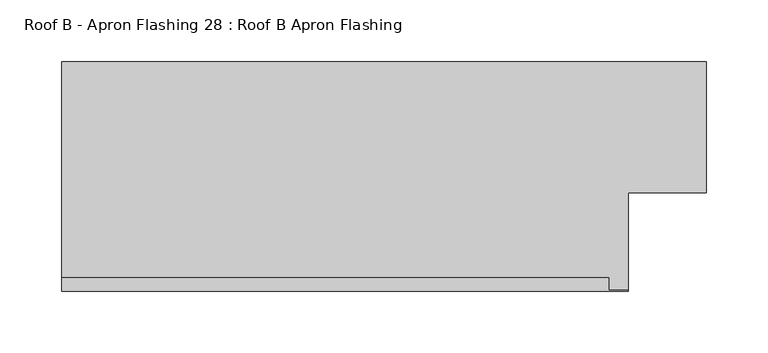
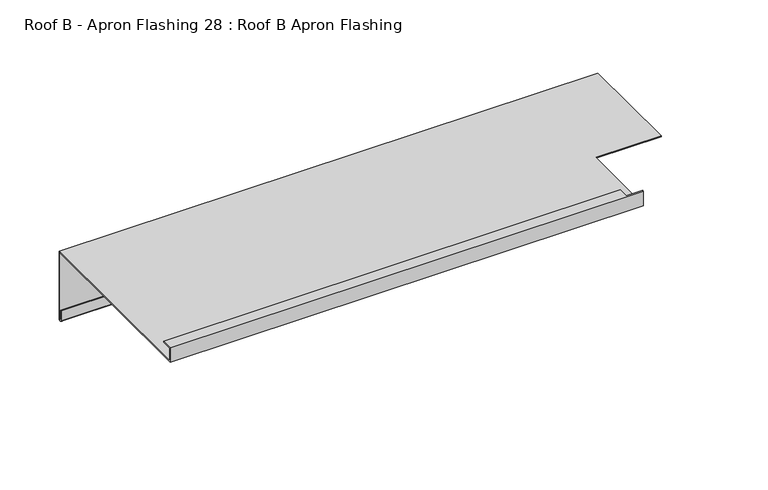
"""IFC4 building model written with IfcOpenShell, lengths in millimetres: proxy geometry, Roof B - Apron Flashing 28 : Roof B Apron Flashing."""

from ifc_helpers import new_model, si_unit, frame, origin, place, context, project, spatial, polyline, circle_curve, source, transform, mapped, element, save
from ifc_brep_helpers import plane_surface, cylinder_surface, revolved_surface, advanced_brep


def roof_b_apron_flashing_28_roof_b_apron_flashing_59df76a3(model_context):
    return source(origin(), model_context, "Body", "AdvancedBrep", [
        advanced_brep(
        [(17202.834238, -20612.5455269, -986.662203), (17202.834238, -20612.5455269, -1055.0764166), (17202.834238, -20613.5455269, -1055.0764166), (17202.834238, -20613.5455269, -1045.1233066), (17202.834238, -20614.5455269, -1045.1233066), (17202.834238, -20614.5455269, -1055.0764166), (17202.834238, -20611.5455269, -1055.0764166), (17202.834238, -20611.5455269, -985.662203), (17202.834238, -20717.9886752, -985.662203), (17202.834238, -20717.9886752, -986.662203), (16679.5223206, -20611.5455269, -985.662203), (16679.5223206, -20611.5455269, -1055.0764166), (16679.5223206, -20614.5455269, -1055.0764166), (16679.5223206, -20614.5455269, -1045.1233066), (16679.5223206, -20613.5455269, -1045.1233066), (16679.5223206, -20613.5455269, -1055.0764166), (16679.5223206, -20612.5455269, -1055.0764166), (16679.5223206, -20612.5455269, -986.662203), (16679.5223206, -20797.9866572, -986.662203), (16679.5223206, -20797.9866572, -971.662203), (16679.5223206, -20786.9483445, -971.662203), (16679.5223206, -20786.9483445, -972.662203), (16679.5223206, -20796.9866572, -972.662203), (16679.5223206, -20796.9866572, -985.662203), (17139.5223206, -20796.9866572, -985.662203), (17139.5223206, -20717.9886752, -985.662203), (17139.5223206, -20717.9886752, -986.662203), (17139.5223206, -20797.9866572, -986.662203), (17123.3947451, -20796.9866572, -972.662203), (17123.3947451, -20796.9866572, -971.662203), (17139.5223206, -20796.9866572, -971.662203), (17123.3947451, -20786.9483445, -972.662203), (17123.3947451, -20786.9483445, -971.662203), (17139.5223206, -20797.9866572, -971.662203)],
        [
            (0, 1),
            (1, 2, circle_curve(frame((17202.834238, -20613.0455269, -1055.0764166), z_axis=(-1.0, 0.0, 0.0), x_axis=(0.0, 0.0, 1.0)), 0.5)),
            (2, 3),
            (3, 4),
            (4, 5),
            (5, 6, circle_curve(frame((17202.834238, -20613.0455269, -1055.0764166), z_axis=(1.0, 0.0, 0.0), x_axis=(0.0, 0.0, 1.0)), 1.5)),
            (6, 7),
            (7, 8),
            (8, 9),
            (9, 0),
            (10, 11),
            (11, 12, circle_curve(frame((16679.5223206, -20613.0455269, -1055.0764166), z_axis=(-1.0, 0.0, 0.0), x_axis=(0.0, 0.0, 1.0)), 1.5)),
            (12, 13),
            (13, 14),
            (14, 15),
            (15, 16, circle_curve(frame((16679.5223206, -20613.0455269, -1055.0764166), z_axis=(1.0, 0.0, 0.0), x_axis=(0.0, 0.0, 1.0)), 0.5)),
            (16, 17),
            (17, 18),
            (18, 19),
            (19, 20),
            (20, 21),
            (21, 22),
            (22, 23),
            (23, 10),
            (23, 24),
            (24, 25),
            (25, 8),
            (7, 10),
            (17, 0),
            (9, 26),
            (26, 27),
            (27, 18),
            (16, 1),
            (6, 11),
            (22, 28),
            (28, 29),
            (29, 30),
            (30, 24),
            (21, 31),
            (31, 28),
            (20, 32),
            (32, 31),
            (19, 33),
            (33, 30),
            (29, 32),
            (27, 33),
            (15, 2),
            (14, 3),
            (13, 4),
            (12, 5),
            (26, 25),
        ],
        [
            plane_surface(frame((17202.834238, -20806.0187503, -1042.7388515), z_axis=(1.0, 0.0, 0.0), x_axis=(0.0, 1.0, 0.0))),
            plane_surface(frame((16679.5223206, -20806.0187503, -1042.7388515), z_axis=(-1.0, 0.0, 0.0), x_axis=(0.0, 1.0, 0.0))),
            plane_surface(frame((17202.834238, -20611.5455269, -985.662203), z_axis=(0.0, 0.0, 1.0), x_axis=(-1.0, 0.0, 0.0))),
            plane_surface(frame((17202.834238, -20797.9866572, -986.662203), z_axis=(0.0, 0.0, -1.0), x_axis=(-1.0, 0.0, 0.0))),
            plane_surface(frame((17202.834238, -20612.5455269, -986.662203), z_axis=(0.0, -1.0, 0.0), x_axis=(-1.0, 0.0, 0.0))),
            plane_surface(frame((17202.834238, -20611.5455269, -1055.0764166), z_axis=(0.0, 1.0, 0.0), x_axis=(-1.0, 0.0, 0.0))),
            plane_surface(frame((17202.834238, -20796.9866572, -985.662203), z_axis=(0.0, 1.0, 0.0), x_axis=(-1.0, 0.0, 0.0))),
            plane_surface(frame((17202.834238, -20796.9866572, -972.662203), z_axis=(0.0, 0.0, -1.0), x_axis=(-1.0, 0.0, 0.0))),
            plane_surface(frame((17202.834238, -20786.9483445, -972.662203), z_axis=(0.0, 1.0, 0.0), x_axis=(-1.0, 0.0, 0.0))),
            plane_surface(frame((17202.834238, -20786.9483445, -971.662203), z_axis=(0.0, 0.0, 1.0), x_axis=(-1.0, 0.0, 0.0))),
            plane_surface(frame((17202.834238, -20797.9866572, -971.662203), z_axis=(0.0, -1.0, 0.0), x_axis=(-1.0, 0.0, 0.0))),
            revolved_surface(polyline([(16679.5223206, -20613.0455269, -1054.5764166), (17202.834238, -20613.0455269, -1054.5764166)]), (17202.834238, -20613.0455269, -1055.0764166), (-1.0, 0.0, 0.0)),
            plane_surface(frame((17202.834238, -20613.5455269, -1055.0764166), z_axis=(0.0, 1.0, 0.0), x_axis=(-1.0, 0.0, 0.0))),
            plane_surface(frame((17202.834238, -20613.5455269, -1045.1233066), z_axis=(0.0, 0.0, 1.0), x_axis=(-1.0, 0.0, 0.0))),
            plane_surface(frame((17202.834238, -20614.5455269, -1045.1233066), z_axis=(0.0, -1.0, 0.0), x_axis=(-1.0, 0.0, 0.0))),
            cylinder_surface(frame((17202.834238, -20613.0455269, -1055.0764166), z_axis=(1.0, 0.0, 0.0), x_axis=(0.0, 0.0, 1.0)), 1.5),
            plane_surface(frame((17139.5223206, -20717.9886752, -1079.9089722), z_axis=(1.0, 0.0, 0.0), x_axis=(0.0, -0.9659258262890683, 0.25881904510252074))),
            plane_surface(frame((17139.5223206, -20717.9886752, -852.4830665), z_axis=(0.0, -1.0, 0.0), x_axis=(1.0, 0.0, 0.0))),
            plane_surface(frame((17123.3947451, -20796.9866064, -884.3834078), z_axis=(1.0, 0.0, 0.0), x_axis=(0.0, 0.0, -1.0))),
        ],
        [
            (0, [[1, 2, 3, 4, 5, 6, 7, 8, 9, 10]]),
            (1, [[11, 12, 13, 14, 15, 16, 17, 18, 19, 20, 21, 22, 23, 24]]),
            (2, [[-24, 25, 26, 27, -8, 28]]),
            (3, [[-18, 29, -10, 30, 31, 32]]),
            (4, [[-1, -29, -17, 33]]),
            (5, [[-7, 34, -11, -28]]),
            (6, [[-23, 35, 36, 37, 38, -25]]),
            (7, [[-22, 39, 40, -35]]),
            (8, [[-21, 41, 42, -39]]),
            (9, [[-20, 43, 44, -37, 45, -41]]),
            (10, [[-19, -32, 46, -43]]),
            (11, [[-2, -33, -16, 47]]),
            (12, [[-3, -47, -15, 48]]),
            (13, [[-4, -48, -14, 49]]),
            (14, [[-5, -49, -13, 50]]),
            (15, [[-6, -50, -12, -34]]),
            (16, [[51, -26, -38, -44, -46, -31]]),
            (17, [[-51, -30, -9, -27]]),
            (18, [[-36, -40, -42, -45]]),
        ],
    ),
    ])


if __name__ == "__main__":
    model = new_model("IFC4")
    model_context = context("Model", 3, world=origin())
    ifc_project = project(units=[si_unit("LENGTHUNIT", "METRE", prefix="MILLI")], contexts=[model_context])
    site = spatial("IfcSite", under=ifc_project)
    building = spatial("IfcBuilding", under=site)
    placement = place(None, origin())
    roof_b_apron_flashing_28_roof_b_apron_flashing_shape = roof_b_apron_flashing_28_roof_b_apron_flashing_59df76a3(model_context)
    element("IfcBuildingElementProxy", 1, Name="Roof B - Apron Flashing 28 : Roof B Apron Flashing", ObjectType="Roof B - Apron Flashing 28 : Roof B Apron Flashing", at=placement, inside=building, context=model_context, shape_type="MappedRepresentation", body=[
        mapped(roof_b_apron_flashing_28_roof_b_apron_flashing_shape, transform((0.0, 0.0, 0.0), x_axis=(1.0, 0.0, 0.0), y_axis=(0.0, 1.0, 0.0), z_axis=(0.0, 0.0, 1.0))),
    ])
    save(model, "model.ifc")
